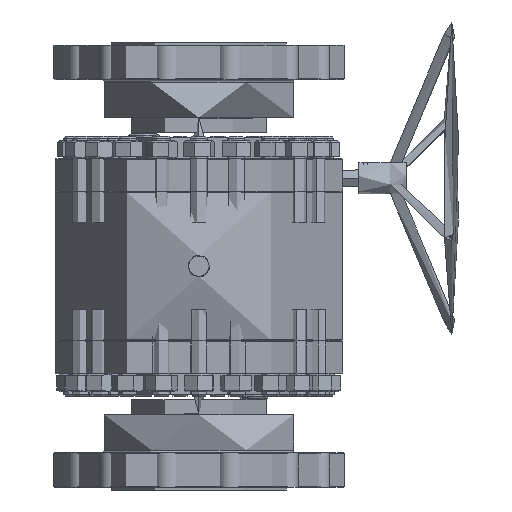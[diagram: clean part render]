
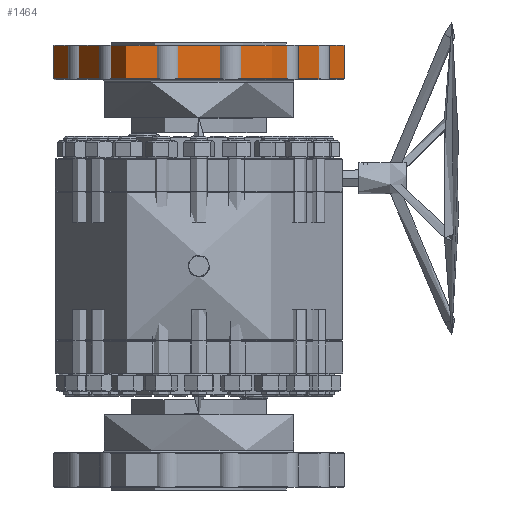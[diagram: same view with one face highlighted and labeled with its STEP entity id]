
A CAD part, front view. The second image highlights one B-rep face of the part: STEP entity #1464.
In plain terms, the highlighted cylindrical face has radius 215 mm (diameter 430 mm), a partial arc.
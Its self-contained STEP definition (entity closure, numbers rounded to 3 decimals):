
#1464=ADVANCED_FACE('',(#3191),#3193,.T.);
#3191=FACE_OUTER_BOUND('',#3192,.T.);
#3192=EDGE_LOOP('',(#24050,#24051,#24052,#24053));
#3193=CYLINDRICAL_SURFACE('',#3194,215.);
#3194=AXIS2_PLACEMENT_3D('',#3195,#3196,#3197);
#3195=CARTESIAN_POINT('',(0.,0.,276.));
#3196=DIRECTION('',(0.,0.,1.));
#3197=DIRECTION('',(1.,0.,0.));
#24050=ORIENTED_EDGE('',*,*,#31704,.F.);
#24051=ORIENTED_EDGE('',*,*,#31705,.T.);
#24052=ORIENTED_EDGE('',*,*,#31706,.T.);
#24053=ORIENTED_EDGE('',*,*,#31703,.T.);
#31703=EDGE_CURVE('',#36516,#36520,#36522,.T.);
#31704=EDGE_CURVE('',#36523,#36520,#36524,.T.);
#31705=EDGE_CURVE('',#36523,#36525,#36526,.T.);
#31706=EDGE_CURVE('',#36525,#36516,#36527,.T.);
#36516=VERTEX_POINT('',#45399);
#36520=VERTEX_POINT('',#45408);
#36522=CIRCLE('',#45412,215.);
#36523=VERTEX_POINT('',#45416);
#36524=LINE('',#45417,#45418);
#36525=VERTEX_POINT('',#45420);
#36526=CIRCLE('',#45421,215.);
#36527=LINE('',#45425,#45426);
#45399=CARTESIAN_POINT('',(215.,0.005,326.));
#45408=CARTESIAN_POINT('',(-215.,-0.005,326.));
#45412=AXIS2_PLACEMENT_3D('',#45413,#45414,#45415);
#45413=CARTESIAN_POINT('',(0.,0.,326.));
#45414=DIRECTION('',(0.,0.,-1.));
#45415=DIRECTION('',(1.,0.,0.));
#45416=CARTESIAN_POINT('',(-215.,-0.005,277.));
#45417=CARTESIAN_POINT('',(-215.,-0.005,277.));
#45418=VECTOR('',#45419,1.);
#45419=DIRECTION('',(0.,0.,1.));
#45420=CARTESIAN_POINT('',(215.,0.005,277.));
#45421=AXIS2_PLACEMENT_3D('',#45422,#45423,#45424);
#45422=CARTESIAN_POINT('',(0.,0.,277.));
#45423=DIRECTION('',(0.,0.,1.));
#45424=DIRECTION('',(-1.,0.,0.));
#45425=CARTESIAN_POINT('',(215.,0.005,277.));
#45426=VECTOR('',#45427,1.);
#45427=DIRECTION('',(0.,0.,1.));
